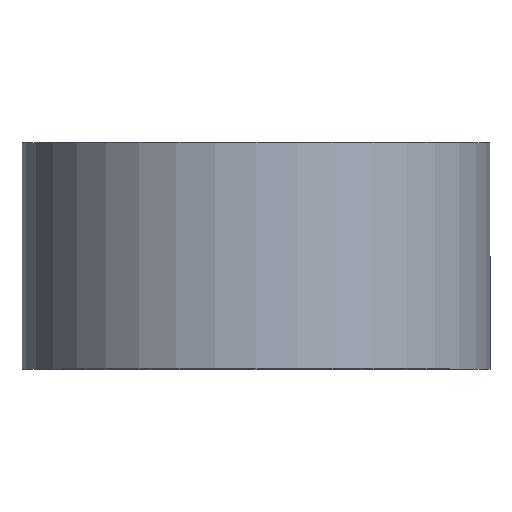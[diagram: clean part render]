
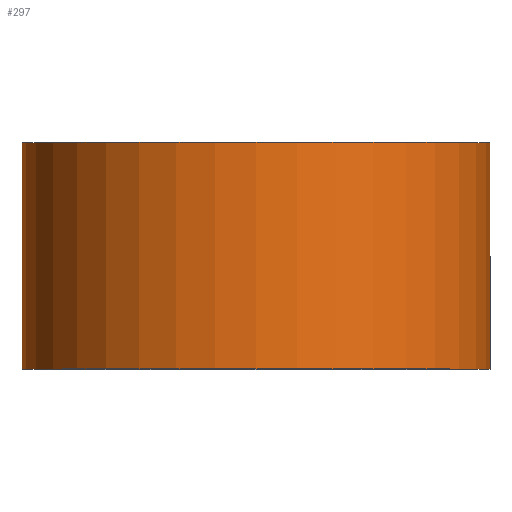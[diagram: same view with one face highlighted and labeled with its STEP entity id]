
A CAD part, top view. The second image highlights one B-rep face of the part: STEP entity #297.
In plain terms, the highlighted cylindrical face has radius 31 mm (diameter 62 mm), a partial arc.
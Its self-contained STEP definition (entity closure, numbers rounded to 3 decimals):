
#3 = DIRECTION ( 'NONE',  ( 0., 1., 0. ) ) ;
#8 = DIRECTION ( 'NONE',  ( 0., 1., 0. ) ) ;
#10 = DIRECTION ( 'NONE',  ( -1., 0., 0. ) ) ;
#23 = CARTESIAN_POINT ( 'NONE',  ( -31., 0., 0. ) ) ;
#25 = ORIENTED_EDGE ( 'NONE', *, *, #222, .T. ) ;
#28 = CIRCLE ( 'NONE', #234, 31. ) ;
#30 = LINE ( 'NONE', #128, #115 ) ;
#31 = ORIENTED_EDGE ( 'NONE', *, *, #182, .F. ) ;
#32 = DIRECTION ( 'NONE',  ( -1., 0., 0. ) ) ;
#48 = EDGE_LOOP ( 'NONE', ( #25, #191, #146, #31 ) ) ;
#51 = VERTEX_POINT ( 'NONE', #216 ) ;
#63 = DIRECTION ( 'NONE',  ( 0., 1., 0. ) ) ;
#88 = VERTEX_POINT ( 'NONE', #170 ) ;
#94 = EDGE_CURVE ( 'NONE', #274, #51, #30, .T. ) ;
#115 = VECTOR ( 'NONE', #63, 1000. ) ;
#118 = AXIS2_PLACEMENT_3D ( 'NONE', #285, #8, #10 ) ;
#119 = CARTESIAN_POINT ( 'NONE',  ( 0., 0., 0. ) ) ;
#128 = CARTESIAN_POINT ( 'NONE',  ( 31., 0., 0. ) ) ;
#130 = VECTOR ( 'NONE', #178, 1000. ) ;
#134 = CIRCLE ( 'NONE', #158, 31. ) ;
#146 = ORIENTED_EDGE ( 'NONE', *, *, #258, .F. ) ;
#157 = CYLINDRICAL_SURFACE ( 'NONE', #118, 31. ) ;
#158 = AXIS2_PLACEMENT_3D ( 'NONE', #119, #3, #32 ) ;
#162 = DIRECTION ( 'NONE',  ( -1., 0., 0. ) ) ;
#170 = CARTESIAN_POINT ( 'NONE',  ( -31., 0., 0. ) ) ;
#173 = FACE_OUTER_BOUND ( 'NONE', #48, .T. ) ;
#178 = DIRECTION ( 'NONE',  ( 0., 1., 0. ) ) ;
#181 = VERTEX_POINT ( 'NONE', #255 ) ;
#182 = EDGE_CURVE ( 'NONE', #88, #181, #278, .T. ) ;
#191 = ORIENTED_EDGE ( 'NONE', *, *, #94, .T. ) ;
#209 = DIRECTION ( 'NONE',  ( 0., 1., 0. ) ) ;
#211 = CARTESIAN_POINT ( 'NONE',  ( 31., 0., 0. ) ) ;
#216 = CARTESIAN_POINT ( 'NONE',  ( 31., 30., 0. ) ) ;
#222 = EDGE_CURVE ( 'NONE', #88, #274, #134, .T. ) ;
#234 = AXIS2_PLACEMENT_3D ( 'NONE', #287, #209, #162 ) ;
#255 = CARTESIAN_POINT ( 'NONE',  ( -31., 30., 0. ) ) ;
#258 = EDGE_CURVE ( 'NONE', #181, #51, #28, .T. ) ;
#274 = VERTEX_POINT ( 'NONE', #211 ) ;
#278 = LINE ( 'NONE', #23, #130 ) ;
#285 = CARTESIAN_POINT ( 'NONE',  ( 0., 0., 0. ) ) ;
#287 = CARTESIAN_POINT ( 'NONE',  ( 0., 30., 0. ) ) ;
#297 = ADVANCED_FACE ( 'NONE', ( #173 ), #157, .T. ) ;
